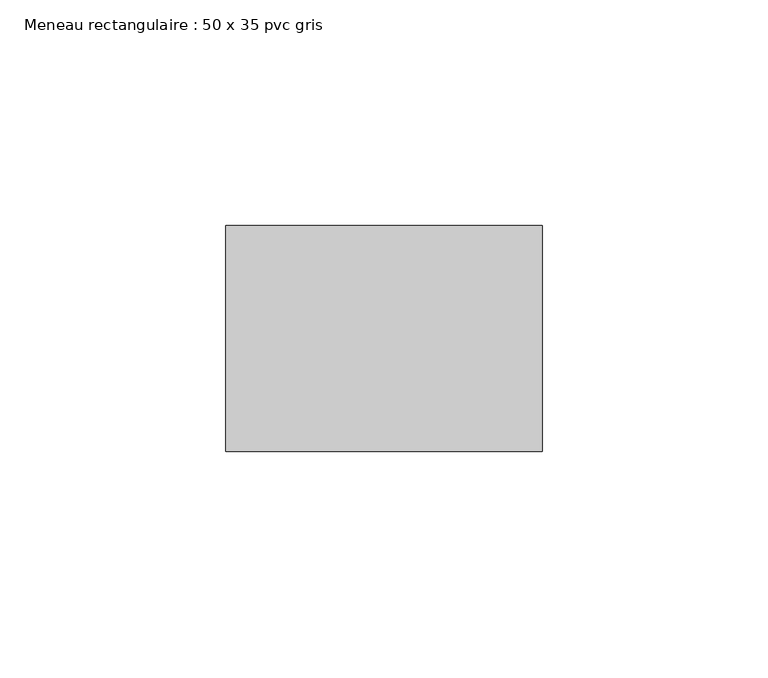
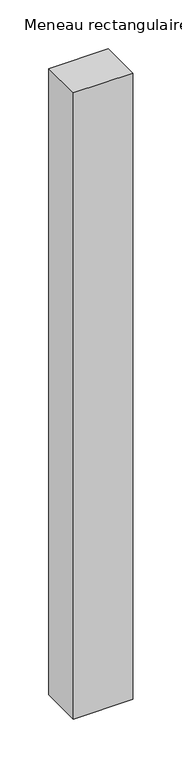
"""IFC4 building model written with IfcOpenShell, lengths in millimetres: member geometry, Meneau rectangulaire : 50 x 35 pvc gris."""

from ifc_helpers import new_model, si_unit, frame, origin, place, context, project, spatial, polyline, outline, extrude, source, transform, mapped, element, save


def meneau_rectangulaire_50_x_35_pvc_gris_98663539(model_context):
    return source(origin(), model_context, "Body", "SweptSolid", [
        extrude(outline(polyline([(35.0, 0.0), (35.0, -50.0), (-35.0, -50.0), (-35.0, 0.0), (35.0, 0.0)])), frame((0.0, 0.0, -780.0), z_axis=(0.0, 0.0, 1.0), x_axis=(1.0, 0.0, 0.0)), (0.0, 0.0, 1.0), 780.0),
    ])


if __name__ == "__main__":
    model = new_model("IFC4")
    model_context = context("Model", 3, world=origin())
    ifc_project = project(units=[si_unit("LENGTHUNIT", "METRE", prefix="MILLI")], contexts=[model_context])
    site = spatial("IfcSite", under=ifc_project)
    building = spatial("IfcBuilding", under=site)
    placement = place(None, origin())
    meneau_rectangulaire_50_x_35_pvc_gris_shape = meneau_rectangulaire_50_x_35_pvc_gris_98663539(model_context)
    element("IfcMember", 1, ObjectType="Meneau rectangulaire : 50 x 35 pvc gris", at=placement, inside=building, context=model_context, shape_type="MappedRepresentation", body=[
        mapped(meneau_rectangulaire_50_x_35_pvc_gris_shape, transform((0.0, 0.0, 0.0), x_axis=(1.0, 0.0, 0.0), y_axis=(0.0, 1.0, 0.0), z_axis=(0.0, 0.0, 1.0))),
    ])
    save(model, "model.ifc")
